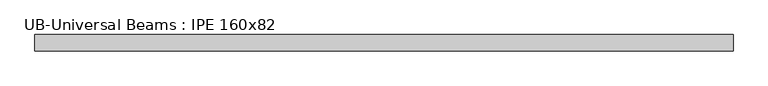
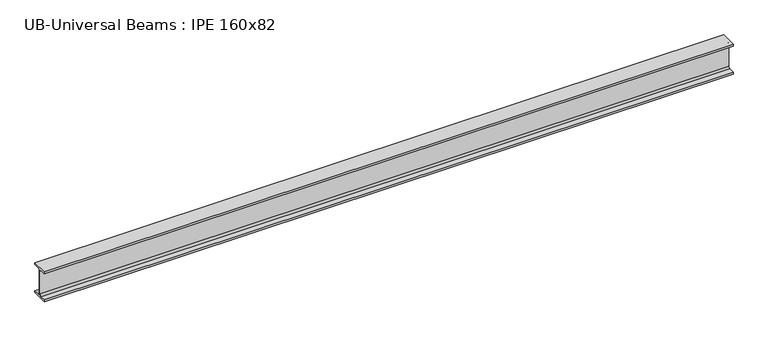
"""IFC4 building model written with IfcOpenShell, lengths in millimetres: beam geometry, UB-Universal Beams : IPE 160x82."""

from ifc_helpers import new_model, si_unit, point, frame, frame_2d, origin, place, context, project, spatial, polyline, circle_curve, trimmed, segment, composite_curve, outline, extrude, source, transform, mapped, element, save


def ub_universal_beams_ipe_160x82_bbe57ce0(model_context):
    return source(origin(), model_context, "Body", "SweptSolid", [
        extrude(outline(composite_curve([segment(polyline([(41.0, -69.8), (41.0, -80.0), (-41.0, -80.0), (-41.0, -69.8), (-11.9, -69.8)]), True, "CONTINUOUS"), segment(trimmed(circle_curve(frame_2d((-11.9, -60.9)), 8.9), [point((-11.9, -69.8))], [point((-3.0, -60.9))], True, "CARTESIAN"), True, "CONTINUOUS"), segment(polyline([(-3.0, -60.9), (-3.0, 60.9)]), True, "CONTINUOUS"), segment(trimmed(circle_curve(frame_2d((-11.9, 60.9)), 8.9), [point((-3.0, 60.9))], [point((-11.9, 69.8))], True, "CARTESIAN"), True, "CONTINUOUS"), segment(polyline([(-11.9, 69.8), (-41.0, 69.8), (-41.0, 80.0), (41.0, 80.0), (41.0, 69.8), (11.9, 69.8)]), True, "CONTINUOUS"), segment(trimmed(circle_curve(frame_2d((11.9, 60.9)), 8.9), [point((11.9, 69.8))], [point((3.0, 60.9))], True, "CARTESIAN"), True, "CONTINUOUS"), segment(polyline([(3.0, 60.9), (3.0, -60.9)]), True, "CONTINUOUS"), segment(trimmed(circle_curve(frame_2d((11.9, -60.9)), 8.9), [point((3.0, -60.9))], [point((11.9, -69.8))], True, "CARTESIAN"), True, "CONTINUOUS"), segment(polyline([(11.9, -69.8), (41.0, -69.8)]), True, "CONTINUOUS")], self_intersect=False)), frame((-1742.5, 0.0, 0.0), z_axis=(1.0, 0.0, 0.0), x_axis=(0.0, 1.0, 0.0)), (0.0, 0.0, 1.0), 3485.0),
    ])


if __name__ == "__main__":
    model = new_model("IFC4")
    model_context = context("Model", 3, world=origin())
    ifc_project = project(units=[si_unit("LENGTHUNIT", "METRE", prefix="MILLI")], contexts=[model_context])
    site = spatial("IfcSite", under=ifc_project)
    building = spatial("IfcBuilding", under=site)
    placement = place(None, origin())
    ub_universal_beams_ipe_160x82_shape = ub_universal_beams_ipe_160x82_bbe57ce0(model_context)
    element("IfcBeam", 1, ObjectType="UB-Universal Beams : IPE 160x82", at=placement, inside=building, context=model_context, shape_type="MappedRepresentation", body=[
        mapped(ub_universal_beams_ipe_160x82_shape, transform((0.0, 0.0, 0.0), x_axis=(1.0, 0.0, 0.0), y_axis=(0.0, 1.0, 0.0), z_axis=(0.0, 0.0, 1.0))),
    ])
    save(model, "model.ifc")
